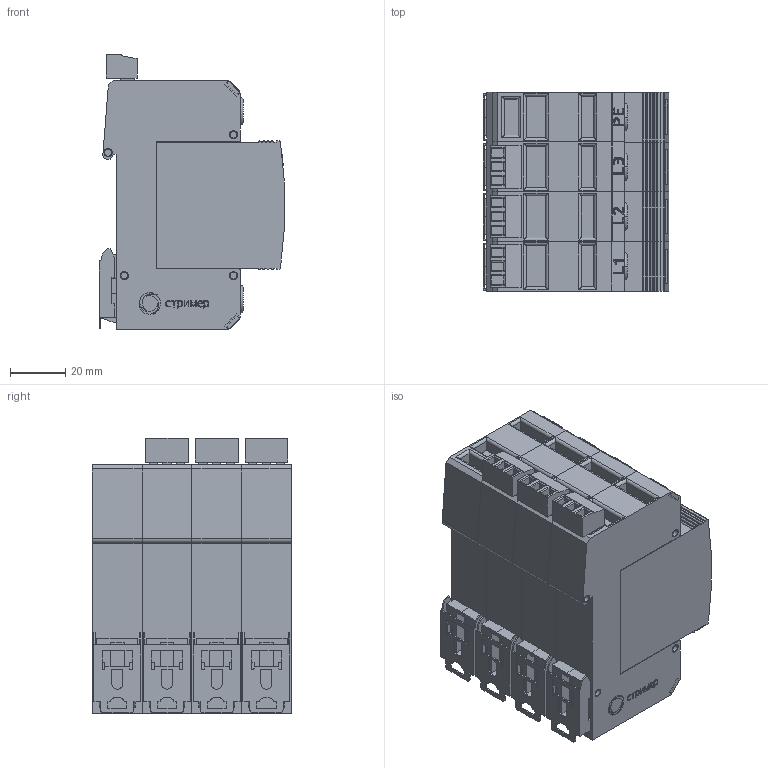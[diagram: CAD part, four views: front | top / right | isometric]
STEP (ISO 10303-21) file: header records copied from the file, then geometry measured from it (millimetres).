
FILE_DESCRIPTION(('TFLEX Exchange Step'),'2;1');
FILE_NAME('X2\041004400442\X0\.114_103.stp', '2022-07-15T15:48:15+03:00',('Pavel Oborin'),('Unknown organisation'),'TFLEX Exchange 2019.2','T-FLEX CAD','Unknown authorisation');
FILE_SCHEMA( ('AUTOMOTIVE_DESIGN { 1 0 10303 214 1 1 1 1 }') );
Length unit declared in the file: millimetre
Products named in the file (24): 0; Буква PE; Буква L3; Буква L2; Буква L1; Сигнализация:12; Сигнализация:9; буква N:8; буква N:7; Планка:4; ВНЕШНИЙ МОДУЛЬ 18 без ушек:4; Корпус 18 без ушей:48; Корпус 18 без ушей:47; Корпус 18 без ушей:46; Корпус 18 без ушей:45; Корпус 18 без ушей:44; Корпус 18 без ушей:43; Корпус 18 без ушей:42; Корпус 18 без ушей:41; Корпус 18 без ушей:40; Корпус 18 без ушей:39; Корпус 18 без ушей:38; Корпус 18 без ушей:37; Арт.114_103
Assembly tree (81 placements, depth 2):
  Арт.114_103
    0
    Буква PE
    Буква L3
    Буква L2
    Буква L1
    Сигнализация:12  x9
    Сигнализация:9  x3
    буква N:8  x4
    буква N:7  x4
    Планка:4  x4
    ВНЕШНИЙ МОДУЛЬ 18 без ушек:4  x4
    Корпус 18 без ушей:48  x4
    Корпус 18 без ушей:47  x4
    Корпус 18 без ушей:46  x4
    Корпус 18 без ушей:45  x4
    Корпус 18 без ушей:44  x4
    Корпус 18 без ушей:43  x4
    Корпус 18 без ушей:42  x4
    Корпус 18 без ушей:41  x4
    Корпус 18 без ушей:40  x4
    Корпус 18 без ушей:39  x4
    Корпус 18 без ушей:38  x4
    Корпус 18 без ушей:37  x4
Bounding box: 66.98 x 72.1 x 99.68 mm (x, y, z)
Volume: 349400.1 mm3; surface area: 101114.3 mm2
Topology: 132 solids, 132 shells, 2269 faces, 5508 edges, 3575 vertices
Faces by surface type: plane 1425, cylinder 552, bspline 258, torus 25, cone 9
Full cylindrical faces by diameter (mm): 1.6 x9, 3 x9
Entity records: 39287 total; most frequent: CARTESIAN_POINT 20040, ORIENTED_EDGE 3918, DIRECTION 3552, EDGE_CURVE 1959, VECTOR 1342, LINE 1342, VERTEX_POINT 1253, AXIS2_PLACEMENT_3D 1105
